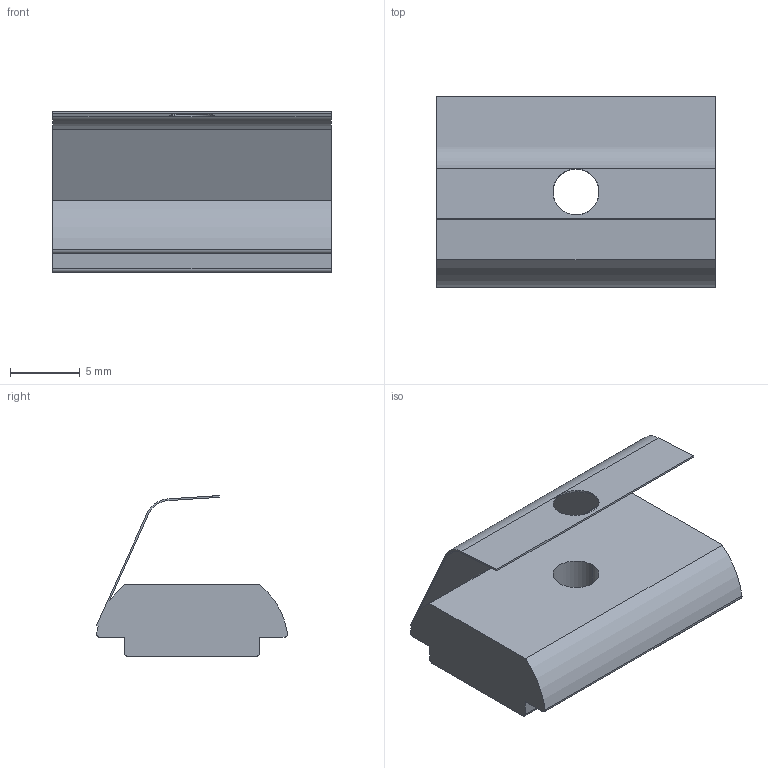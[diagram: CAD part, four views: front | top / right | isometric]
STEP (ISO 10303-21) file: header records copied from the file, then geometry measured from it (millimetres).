
FILE_DESCRIPTION((''),'2;1');
FILE_NAME('205504','2023-02-28T',('jenni.wallner'),(''),'PRO/ENGINEER BY PARAMETRIC TECHNOLOGY CORPORATION, 2012420','PRO/ENGINEER BY PARAMETRIC TECHNOLOGY CORPORATION, 2012420','');
FILE_SCHEMA(('CONFIG_CONTROL_DESIGN'));
Length unit declared in the file: inch
Products named in the file (1): 205504
Bounding box: 20 x 13.73 x 11.56 mm (x, y, z)
Volume: 1192.8 mm3; surface area: 1334.7 mm2
Topology: 1 solids, 1 shells, 27 faces, 79 edges, 53 vertices
Faces by surface type: plane 14, cylinder 13
Entity records: 1000 total; most frequent: CARTESIAN_POINT 219, ORIENTED_EDGE 158, DIRECTION 150, EDGE_CURVE 79, VERTEX_POINT 53, AXIS2_PLACEMENT_3D 50, VECTOR 50, LINE 50
